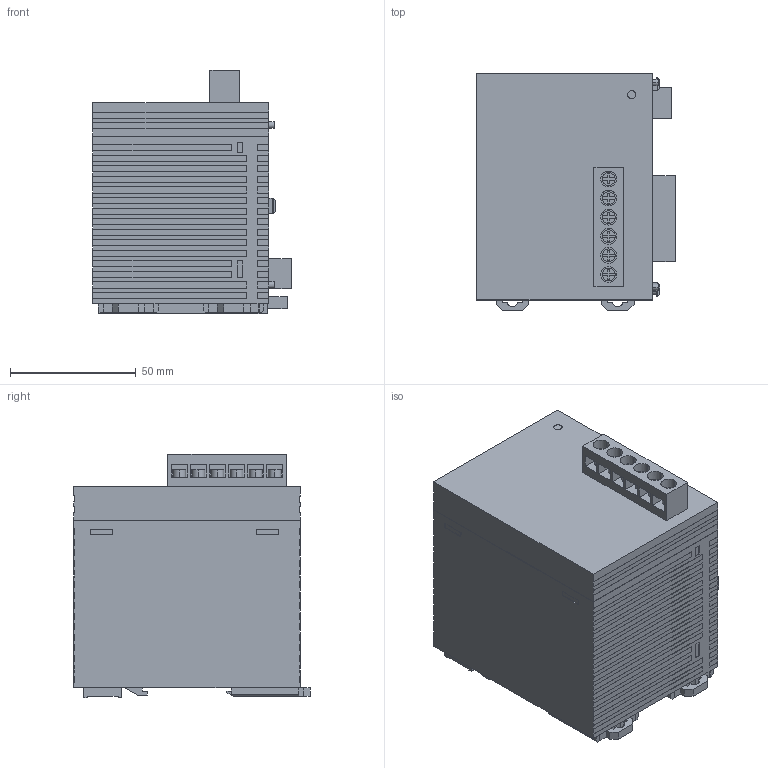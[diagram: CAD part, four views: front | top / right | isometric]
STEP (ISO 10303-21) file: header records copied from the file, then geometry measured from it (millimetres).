
FILE_DESCRIPTION (( 'STEP AP203' ), '1' );
FILE_NAME ('afp7psa2.STEP', '2013-03-14T04:32:54', ( 'sunx' ), ( 'sunx' ), 'SwSTEP 2.0', 'SolidWorks 2010', '' );
FILE_SCHEMA (( 'CONFIG_CONTROL_DESIGN' ));
Length unit declared in the file: millimetre
Products named in the file (1): afp7psa2
Bounding box: 79 x 94 x 96.8 mm (x, y, z)
Volume: 516321.1 mm3; surface area: 48050.1 mm2
Topology: 1 solids, 1 shells, 693 faces, 1966 edges, 1304 vertices
Faces by surface type: plane 651, cylinder 42
Entity records: 22213 total; most frequent: CARTESIAN_POINT 3964, ORIENTED_EDGE 3932, DIRECTION 3474, EDGE_CURVE 1966, LINE 1846, VECTOR 1846, VERTEX_POINT 1304, AXIS2_PLACEMENT_3D 814
